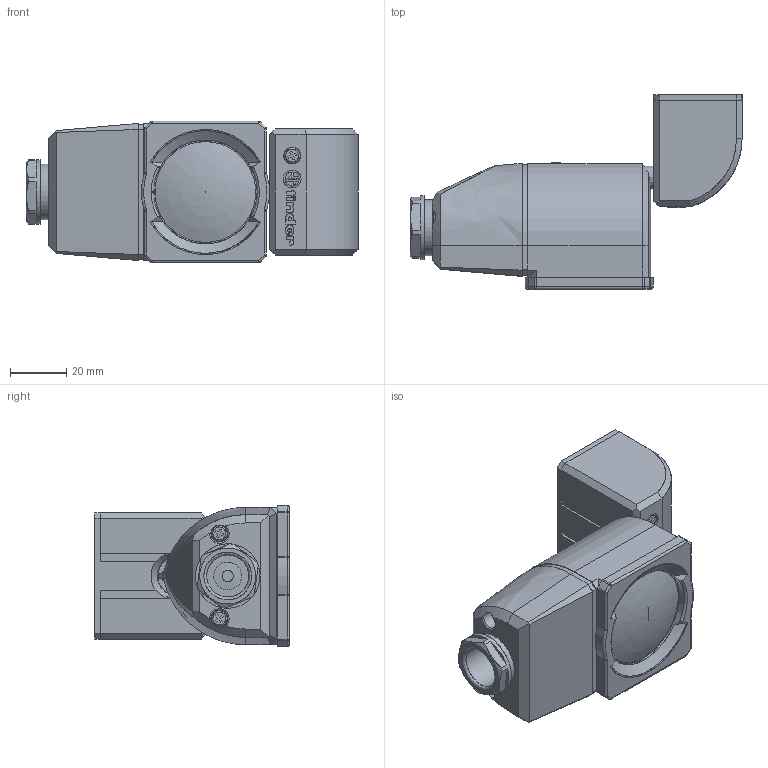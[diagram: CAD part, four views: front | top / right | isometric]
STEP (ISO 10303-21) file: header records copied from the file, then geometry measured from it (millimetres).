
FILE_DESCRIPTION(('STEP AP214'),'2;1');
FILE_NAME('1811_rev01.stp','2015-05-20T17:24:19',(''),(''),'2007.1.106','THINKDESIGN','');
FILE_SCHEMA(('AUTOMOTIVE_DESIGN'));
Length unit declared in the file: millimetre
Products named in the file (1): top
Bounding box: 118.51 x 69.5 x 50.6 mm (x, y, z)
Surface area: 41727.9 mm2 (no closed solid volume)
Topology: 0 solids, 0 shells, 485 faces, 2790 edges, 2758 vertices
Faces by surface type: plane 292, bspline 100, cylinder 93
Full cylindrical faces by diameter (mm): 3 x1, 5 x1, 5.6 x3, 6 x4, 6.342 x1, 10 x1, 15 x1, 20 x1, 23 x1, 37 x1
Entity records: 28009 total; most frequent: CARTESIAN_POINT 13798, DIRECTION 2888, COMPOSITE_CURVE_SEGMENT 2775, TRIMMED_CURVE 1864, VECTOR 1656, LINE 1656, AXIS2_PLACEMENT_3D 616, OUTER_BOUNDARY_CURVE 485
